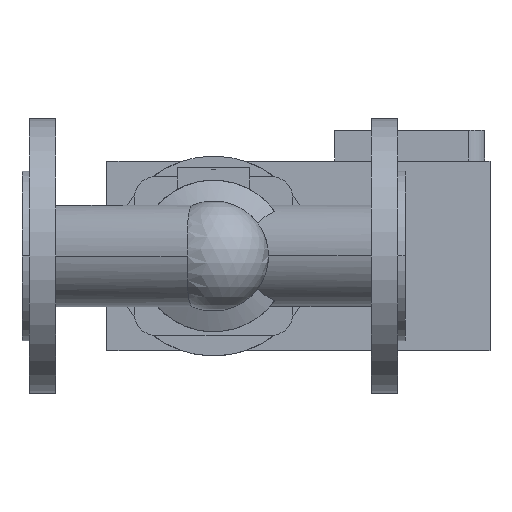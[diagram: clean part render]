
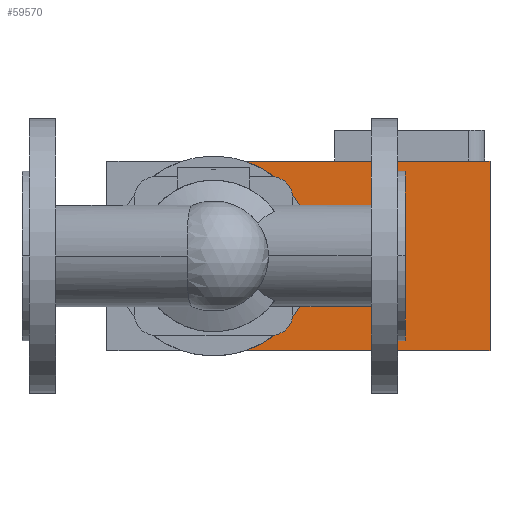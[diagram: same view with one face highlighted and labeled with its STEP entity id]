
A CAD part, front view. The second image highlights one B-rep face of the part: STEP entity #59570.
In plain terms, the highlighted planar face has unit normal (0, -1, 0).
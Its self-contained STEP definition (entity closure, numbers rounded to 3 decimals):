
#56110=CARTESIAN_POINT('',(-28.5,228.,32.));
#56120=DIRECTION('',(0.,1.,-0.));
#56130=DIRECTION('',(-1.,0.,0.));
#56140=AXIS2_PLACEMENT_3D('',#56110,#56120,#56130);
#56150=PLANE('',#56140);
#56160=CARTESIAN_POINT('',(-64.,228.,-25.));
#56170=DIRECTION('',(1.,0.,0.));
#56180=VECTOR('',#56170,1.);
#56190=LINE('',#56160,#56180);
#56340=CARTESIAN_POINT('',(-64.,228.,89.));
#56350=DIRECTION('',(1.,0.,0.));
#56360=VECTOR('',#56350,1.);
#56370=LINE('',#56340,#56360);
#56420=CARTESIAN_POINT('',(0.,228.,32.));
#56430=DIRECTION('',(0.,-1.,0.));
#56440=DIRECTION('',(-1.,0.,0.));
#56450=AXIS2_PLACEMENT_3D('',#56420,#56430,#56440);
#56460=CIRCLE('',#56450,60.);
#56650=CARTESIAN_POINT('',(18.735,228.,-25.));
#56660=VERTEX_POINT('',#56650);
#56710=CARTESIAN_POINT('',(166.,228.,-25.));
#56720=VERTEX_POINT('',#56710);
#56730=EDGE_CURVE('',#56660,#56720,#56190,.T.);
#58030=CARTESIAN_POINT('',(166.,228.,89.));
#58040=VERTEX_POINT('',#58030);
#58070=CARTESIAN_POINT('',(18.735,228.,89.));
#58080=VERTEX_POINT('',#58070);
#58090=EDGE_CURVE('',#58080,#58040,#56370,.T.);
#59340=CARTESIAN_POINT('',(60.,228.,32.));
#59350=VERTEX_POINT('',#59340);
#59360=EDGE_CURVE('',#59350,#58080,#56460,.T.);
#59440=ORIENTED_EDGE('',*,*,#58090,.F.);
#59450=CARTESIAN_POINT('',(166.,228.,32.));
#59460=DIRECTION('',(0.,0.,-1.));
#59470=VECTOR('',#59460,1.);
#59480=LINE('',#59450,#59470);
#59490=EDGE_CURVE('',#58040,#56720,#59480,.T.);
#59500=ORIENTED_EDGE('',*,*,#59490,.F.);
#59510=ORIENTED_EDGE('',*,*,#56730,.T.);
#59520=EDGE_CURVE('',#56660,#59350,#56460,.T.);
#59530=ORIENTED_EDGE('',*,*,#59520,.F.);
#59540=ORIENTED_EDGE('',*,*,#59360,.F.);
#59550=EDGE_LOOP('',(#59540,#59530,#59510,#59500,#59440));
#59560=FACE_OUTER_BOUND('',#59550,.T.);
#59570=ADVANCED_FACE('',(#59560),#56150,.F.);
